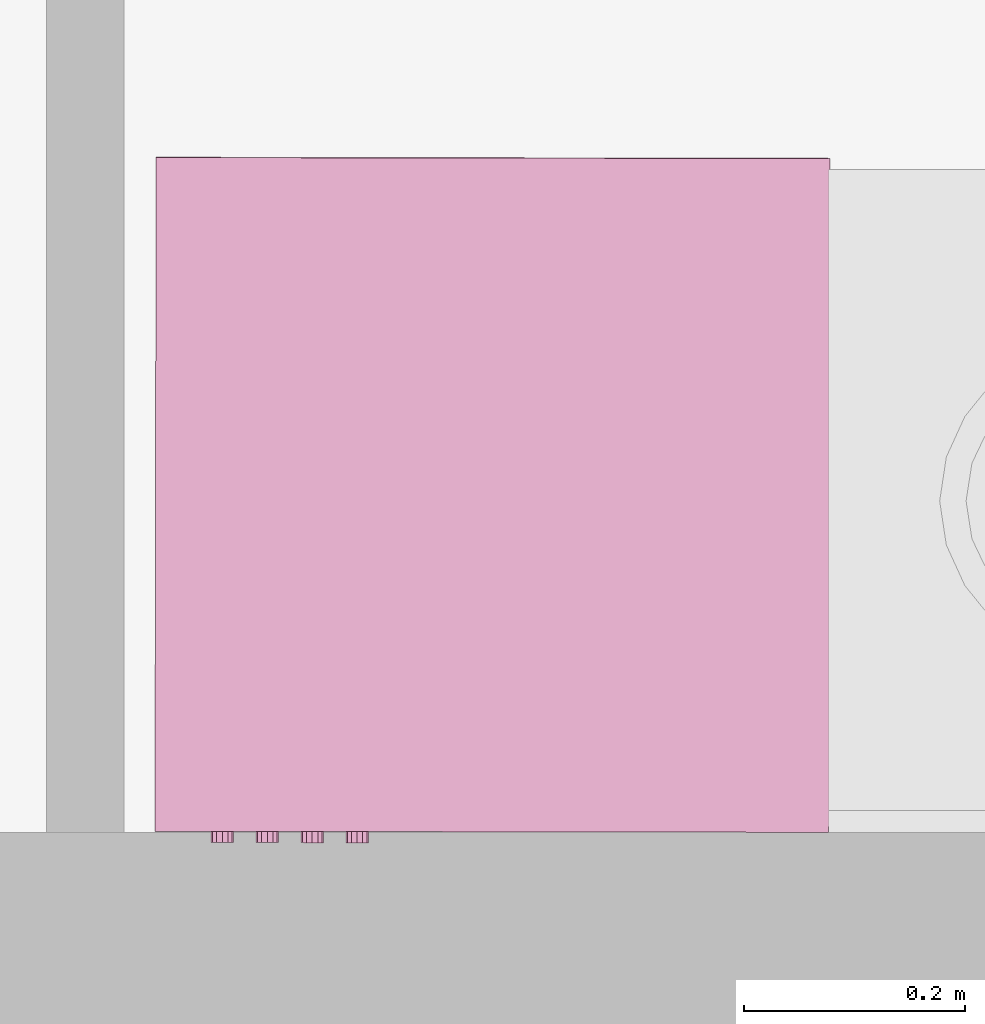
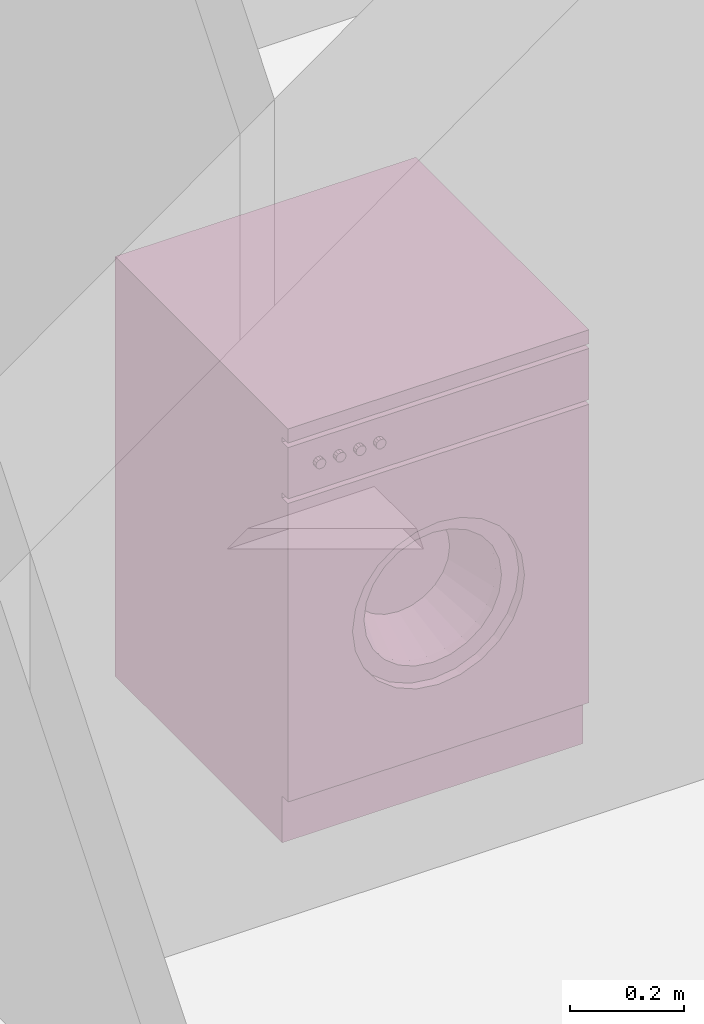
# One storey, part 121 of 164: 1 furnishing.
"""IFC2X3 building model written with IfcOpenShell, lengths in millimetres."""

from ifc_helpers import new_model, entity, si_unit, converted_unit, derived_unit, money_unit, direction, frame, origin_with_axes, place, context, subcontext, project, spatial, open_shell, faceted_brep, surface_model, source, transform, mapped, type_object, element, save


model = new_model("IFC2X3")

# Units and contexts
model_context = context("Model", 3, precision=0.01, world=origin_with_axes(), true_north=direction((0.0, 1.0)))
body_context = subcontext(model_context, "Body", "Model", "MODEL_VIEW")
ifc_project = project(units=[si_unit("LENGTHUNIT", "METRE", prefix="MILLI"), si_unit("AREAUNIT", "SQUARE_METRE"), si_unit("VOLUMEUNIT", "CUBIC_METRE"), converted_unit("PLANEANGLEUNIT", "DEGREE", entity("IfcPlaneAngleMeasure", 0.0174532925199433), si_unit("PLANEANGLEUNIT", "RADIAN"), dimensions=[0, 0, 0, 0, 0, 0, 0]), money_unit("USD"), converted_unit("TIMEUNIT", "Year", entity("IfcTimeMeasure", 31557600.0), si_unit("TIMEUNIT", "SECOND"), dimensions=[0, 0, 1, 0, 0, 0, 0]), si_unit("MASSUNIT", "GRAM", prefix="KILO"), si_unit("THERMODYNAMICTEMPERATUREUNIT", "DEGREE_CELSIUS"), si_unit("LUMINOUSINTENSITYUNIT", "LUMEN"), si_unit("ENERGYUNIT", "JOULE", prefix="MEGA"), derived_unit("THERMALCONDUCTANCEUNIT", [(si_unit("POWERUNIT", "WATT"), 1), (si_unit("LENGTHUNIT", "METRE"), -1), (si_unit("THERMODYNAMICTEMPERATUREUNIT", "KELVIN"), -1)]), derived_unit("SPECIFICHEATCAPACITYUNIT", [(si_unit("ENERGYUNIT", "JOULE"), 1), (si_unit("MASSUNIT", "GRAM", prefix="KILO"), -1), (si_unit("THERMODYNAMICTEMPERATUREUNIT", "KELVIN"), -1)]), derived_unit("MASSDENSITYUNIT", [(si_unit("MASSUNIT", "GRAM", prefix="KILO"), 1), (si_unit("VOLUMEUNIT", "CUBIC_METRE"), -1)])], contexts=[model_context])

# Site, building, storey
site_placement = place(None, origin_with_axes())
site = spatial("IfcSite", under=ifc_project, at=site_placement, Name="Site", CompositionType="ELEMENT")
building_placement = place(site_placement, origin_with_axes())
building = spatial("IfcBuilding", under=site, at=building_placement, Name="Bâtiment", CompositionType="ELEMENT")
storey_placement = place(building_placement, frame((0.0, 0.0, 5750.0), z_axis=(0.0, 0.0, 1.0), x_axis=(1.0, 0.0, 0.0)))
storey = spatial("IfcBuildingStorey", under=building, at=storey_placement, Name="Etage1", CompositionType="ELEMENT", Elevation=5750.0)

# Furnishing
furnishing_element_type = type_object("IfcFurnishingElementType", Name="Machine à laver")
shared_shape = source(origin_with_axes(), body_context, "Body", "SurfaceModel", [
    faceted_brep([(0.0, 20.33333333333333, 100.0), (610.0, 20.33333333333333, 100.0), (610.0, 0.0, 100.0), (0.0, 0.0, 100.0), (0.0, 20.33333333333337, 740.0), (610.0, 20.33333333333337, 740.0), (479.2857142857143, 20.33333333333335, 420.0000000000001), (473.3470725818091, 20.33333333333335, 465.1084621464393), (455.935856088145, 20.33333333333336, 507.1428571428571), (428.2386104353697, 20.33333333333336, 543.2386104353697), (392.1428571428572, 20.33333333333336, 570.935856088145), (350.1084621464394, 20.33333333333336, 588.347072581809), (305.0000000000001, 20.33333333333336, 594.2857142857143), (259.8915378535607, 20.33333333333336, 588.347072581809), (217.8571428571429, 20.33333333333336, 570.9358560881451), (181.7613895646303, 20.33333333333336, 543.2386104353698), (154.0641439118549, 20.33333333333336, 507.1428571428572), (136.6529274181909, 20.33333333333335, 465.1084621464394), (130.7142857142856, 20.33333333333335, 420.0000000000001), (136.6529274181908, 20.33333333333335, 374.8915378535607), (154.0641439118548, 20.33333333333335, 332.8571428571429), (181.7613895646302, 20.33333333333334, 296.7613895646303), (217.8571428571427, 20.33333333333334, 269.064143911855), (259.8915378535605, 20.33333333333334, 251.6529274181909), (304.9999999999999, 20.33333333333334, 245.7142857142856), (350.1084621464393, 20.33333333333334, 251.6529274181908), (392.1428571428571, 20.33333333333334, 269.0641439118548), (428.2386104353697, 20.33333333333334, 296.7613895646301), (455.935856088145, 20.33333333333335, 332.8571428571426), (473.3470725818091, 20.33333333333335, 374.8915378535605), (610.0, 0.0, 740.0), (0.0, 0.0, 740.0), (479.2857142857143, 0.0, 420.0000000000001), (473.3470725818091, 0.0, 374.8915378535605), (455.935856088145, 0.0, 332.8571428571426), (428.2386104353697, 0.0, 296.7613895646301), (392.1428571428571, 0.0, 269.0641439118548), (350.1084621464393, 0.0, 251.6529274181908), (304.9999999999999, 0.0, 245.7142857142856), (259.8915378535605, 0.0, 251.6529274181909), (217.8571428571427, 0.0, 269.064143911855), (181.7613895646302, 0.0, 296.7613895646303), (154.0641439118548, 0.0, 332.8571428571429), (136.6529274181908, 0.0, 374.8915378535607), (130.7142857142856, 0.0, 420.0000000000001), (136.6529274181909, 0.0, 465.1084621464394), (154.0641439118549, 0.0, 507.1428571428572), (181.7613895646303, 0.0, 543.2386104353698), (217.8571428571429, 0.0, 570.9358560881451), (259.8915378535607, 0.0, 588.347072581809), (305.0000000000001, 0.0, 594.2857142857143), (350.1084621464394, 0.0, 588.347072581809), (392.1428571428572, 0.0, 570.935856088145), (428.2386104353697, 0.0, 543.2386104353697), (455.935856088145, 0.0, 507.1428571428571), (473.3470725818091, 0.0, 465.1084621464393)], [[[0, 1, 2, 3]], [[0, 4, 5, 1], [6, 7, 8, 9, 10, 11, 12, 13, 14, 15, 16, 17, 18, 19, 20, 21, 22, 23, 24, 25, 26, 27, 28, 29]], [[1, 5, 30, 2]], [[3, 2, 30, 31], [32, 33, 34, 35, 36, 37, 38, 39, 40, 41, 42, 43, 44, 45, 46, 47, 48, 49, 50, 51, 52, 53, 54, 55]], [[4, 0, 3, 31]], [[5, 4, 31, 30]], [[7, 6, 32, 55]], [[8, 7, 55, 54]], [[9, 8, 54, 53]], [[10, 9, 53, 52]], [[11, 10, 52, 51]], [[12, 11, 51, 50]], [[13, 12, 50, 49]], [[14, 13, 49, 48]], [[15, 14, 48, 47]], [[16, 15, 47, 46]], [[17, 16, 46, 45]], [[18, 17, 45, 44]], [[19, 18, 44, 43]], [[20, 19, 43, 42]], [[21, 20, 42, 41]], [[22, 21, 41, 40]], [[23, 22, 40, 39]], [[24, 23, 39, 38]], [[25, 24, 38, 37]], [[26, 25, 37, 36]], [[27, 26, 36, 35]], [[28, 27, 35, 34]], [[29, 28, 34, 33]], [[6, 29, 33, 32]]]),
    faceted_brep([(479.2857142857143, 40.66666666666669, 420.0000000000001), (473.3470725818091, 40.66666666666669, 465.1084621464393), (473.3470725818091, 20.33333333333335, 465.1084621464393), (479.2857142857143, 20.33333333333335, 420.0000000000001), (473.3470725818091, 40.66666666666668, 374.8915378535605), (455.935856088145, 40.66666666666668, 332.8571428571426), (428.2386104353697, 40.66666666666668, 296.7613895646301), (392.1428571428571, 40.66666666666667, 269.0641439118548), (350.1084621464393, 40.66666666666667, 251.6529274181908), (304.9999999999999, 40.66666666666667, 245.7142857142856), (259.8915378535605, 40.66666666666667, 251.6529274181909), (217.8571428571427, 40.66666666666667, 269.064143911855), (181.7613895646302, 40.66666666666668, 296.7613895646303), (154.0641439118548, 40.66666666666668, 332.8571428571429), (136.6529274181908, 40.66666666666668, 374.8915378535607), (130.7142857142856, 40.66666666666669, 420.0000000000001), (136.6529274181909, 40.66666666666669, 465.1084621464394), (154.0641439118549, 40.66666666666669, 507.1428571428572), (181.7613895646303, 40.66666666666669, 543.2386104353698), (217.8571428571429, 40.66666666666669, 570.9358560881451), (259.8915378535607, 40.66666666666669, 588.347072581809), (305.0000000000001, 40.66666666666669, 594.2857142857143), (350.1084621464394, 40.66666666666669, 588.347072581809), (392.1428571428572, 40.66666666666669, 570.935856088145), (428.2386104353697, 40.66666666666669, 543.2386104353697), (455.935856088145, 40.66666666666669, 507.1428571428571), (444.4285714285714, 40.66666666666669, 420.0000000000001), (439.6776580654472, 40.66666666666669, 456.0867697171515), (425.748684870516, 40.66666666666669, 489.7142857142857), (403.5908883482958, 40.66666666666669, 518.5908883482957), (374.7142857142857, 40.66666666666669, 540.748684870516), (341.0867697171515, 40.66666666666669, 554.6776580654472), (305.0000000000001, 40.66666666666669, 559.4285714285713), (268.9132302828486, 40.66666666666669, 554.6776580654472), (235.2857142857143, 40.66666666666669, 540.7486848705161), (206.4091116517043, 40.66666666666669, 518.5908883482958), (184.251315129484, 40.66666666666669, 489.7142857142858), (170.3223419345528, 40.66666666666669, 456.0867697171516), (165.5714285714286, 40.66666666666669, 420.0000000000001), (170.3223419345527, 40.66666666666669, 383.9132302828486), (184.2513151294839, 40.66666666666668, 350.2857142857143), (206.4091116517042, 40.66666666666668, 321.4091116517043), (235.2857142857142, 40.66666666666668, 299.251315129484), (268.9132302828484, 40.66666666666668, 285.3223419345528), (304.9999999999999, 40.66666666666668, 280.5714285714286), (341.0867697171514, 40.66666666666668, 285.3223419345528), (374.7142857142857, 40.66666666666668, 299.2513151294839), (403.5908883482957, 40.66666666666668, 321.4091116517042), (425.748684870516, 40.66666666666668, 350.2857142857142), (439.6776580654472, 40.66666666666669, 383.9132302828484), (455.935856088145, 20.33333333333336, 507.1428571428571), (428.2386104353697, 20.33333333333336, 543.2386104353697), (392.1428571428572, 20.33333333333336, 570.935856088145), (350.1084621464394, 20.33333333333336, 588.347072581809), (305.0000000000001, 20.33333333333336, 594.2857142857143), (259.8915378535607, 20.33333333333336, 588.347072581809), (217.8571428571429, 20.33333333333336, 570.9358560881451), (181.7613895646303, 20.33333333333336, 543.2386104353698), (154.0641439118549, 20.33333333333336, 507.1428571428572), (136.6529274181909, 20.33333333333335, 465.1084621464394), (130.7142857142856, 20.33333333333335, 420.0000000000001), (136.6529274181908, 20.33333333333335, 374.8915378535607), (154.0641439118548, 20.33333333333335, 332.8571428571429), (181.7613895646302, 20.33333333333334, 296.7613895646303), (217.8571428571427, 20.33333333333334, 269.064143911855), (259.8915378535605, 20.33333333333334, 251.6529274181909), (304.9999999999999, 20.33333333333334, 245.7142857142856), (350.1084621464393, 20.33333333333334, 251.6529274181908), (392.1428571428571, 20.33333333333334, 269.0641439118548), (428.2386104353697, 20.33333333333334, 296.7613895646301), (455.935856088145, 20.33333333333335, 332.8571428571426), (473.3470725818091, 20.33333333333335, 374.8915378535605), (444.4285714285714, 20.33333333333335, 420.0000000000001), (439.6776580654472, 20.33333333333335, 383.9132302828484), (425.748684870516, 20.33333333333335, 350.2857142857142), (403.5908883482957, 20.33333333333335, 321.4091116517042), (374.7142857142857, 20.33333333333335, 299.2513151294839), (341.0867697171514, 20.33333333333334, 285.3223419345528), (304.9999999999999, 20.33333333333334, 280.5714285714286), (268.9132302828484, 20.33333333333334, 285.3223419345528), (235.2857142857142, 20.33333333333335, 299.251315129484), (206.4091116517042, 20.33333333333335, 321.4091116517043), (184.2513151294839, 20.33333333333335, 350.2857142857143), (170.3223419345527, 20.33333333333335, 383.9132302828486), (165.5714285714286, 20.33333333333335, 420.0000000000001), (170.3223419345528, 20.33333333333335, 456.0867697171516), (184.251315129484, 20.33333333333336, 489.7142857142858), (206.4091116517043, 20.33333333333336, 518.5908883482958), (235.2857142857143, 20.33333333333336, 540.7486848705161), (268.9132302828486, 20.33333333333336, 554.6776580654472), (305.0000000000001, 20.33333333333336, 559.4285714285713), (341.0867697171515, 20.33333333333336, 554.6776580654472), (374.7142857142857, 20.33333333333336, 540.748684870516), (403.5908883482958, 20.33333333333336, 518.5908883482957), (425.748684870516, 20.33333333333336, 489.7142857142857), (439.6776580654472, 20.33333333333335, 456.0867697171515)], [[[0, 1, 2, 3]], [[0, 4, 5, 6, 7, 8, 9, 10, 11, 12, 13, 14, 15, 16, 17, 18, 19, 20, 21, 22, 23, 24, 25, 1], [26, 27, 28, 29, 30, 31, 32, 33, 34, 35, 36, 37, 38, 39, 40, 41, 42, 43, 44, 45, 46, 47, 48, 49]], [[1, 25, 50, 2]], [[3, 2, 50, 51, 52, 53, 54, 55, 56, 57, 58, 59, 60, 61, 62, 63, 64, 65, 66, 67, 68, 69, 70, 71], [72, 73, 74, 75, 76, 77, 78, 79, 80, 81, 82, 83, 84, 85, 86, 87, 88, 89, 90, 91, 92, 93, 94, 95]], [[4, 0, 3, 71]], [[5, 4, 71, 70]], [[6, 5, 70, 69]], [[7, 6, 69, 68]], [[8, 7, 68, 67]], [[9, 8, 67, 66]], [[10, 9, 66, 65]], [[11, 10, 65, 64]], [[12, 11, 64, 63]], [[13, 12, 63, 62]], [[14, 13, 62, 61]], [[15, 14, 61, 60]], [[16, 15, 60, 59]], [[17, 16, 59, 58]], [[18, 17, 58, 57]], [[19, 18, 57, 56]], [[20, 19, 56, 55]], [[21, 20, 55, 54]], [[22, 21, 54, 53]], [[23, 22, 53, 52]], [[24, 23, 52, 51]], [[25, 24, 51, 50]], [[27, 26, 72, 95]], [[28, 27, 95, 94]], [[29, 28, 94, 93]], [[30, 29, 93, 92]], [[31, 30, 92, 91]], [[32, 31, 91, 90]], [[33, 32, 90, 89]], [[34, 33, 89, 88]], [[35, 34, 88, 87]], [[36, 35, 87, 86]], [[37, 36, 86, 85]], [[38, 37, 85, 84]], [[39, 38, 84, 83]], [[40, 39, 83, 82]], [[41, 40, 82, 81]], [[42, 41, 81, 80]], [[43, 42, 80, 79]], [[44, 43, 79, 78]], [[45, 44, 78, 77]], [[46, 45, 77, 76]], [[47, 46, 76, 75]], [[48, 47, 75, 74]], [[49, 48, 74, 73]], [[26, 49, 73, 72]]]),
    surface_model("IfcShellBasedSurfaceModel", [(268.9132302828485, 40.6666666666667, 554.6776580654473), (305.0, 40.6666666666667, 559.4285714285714), (305.0, 142.3333333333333, 524.5714285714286), (277.9349227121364, 142.3333333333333, 521.0082435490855), (341.0867697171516, 40.6666666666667, 554.6776580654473), (332.0650772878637, 142.3333333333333, 521.0082435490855), (357.2857142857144, 142.3333333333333, 510.5615136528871), (378.9431662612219, 142.3333333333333, 493.9431662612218), (395.5615136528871, 142.3333333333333, 472.2857142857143), (406.0082435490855, 142.3333333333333, 447.0650772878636), (409.5714285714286, 142.3333333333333, 420.0), (406.0082435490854, 142.3333333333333, 392.9349227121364), (395.561513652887, 142.3333333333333, 367.7142857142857), (378.9431662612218, 142.3333333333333, 346.0568337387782), (357.2857142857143, 142.3333333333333, 329.438486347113), (332.0650772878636, 142.3333333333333, 318.9917564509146), (304.9999999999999, 142.3333333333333, 315.4285714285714), (277.9349227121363, 142.3333333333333, 318.9917564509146), (252.7142857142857, 142.3333333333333, 329.438486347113), (231.0568337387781, 142.3333333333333, 346.0568337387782), (214.4384863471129, 142.3333333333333, 367.7142857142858), (203.9917564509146, 142.3333333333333, 392.9349227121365), (200.4285714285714, 142.3333333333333, 420.0000000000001), (203.9917564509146, 142.3333333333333, 447.0650772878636), (214.438486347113, 142.3333333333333, 472.2857142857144), (231.0568337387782, 142.3333333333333, 493.9431662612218), (252.7142857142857, 142.3333333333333, 510.5615136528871), (235.2857142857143, 40.6666666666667, 540.7486848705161), (374.7142857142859, 40.6666666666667, 540.7486848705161), (403.5908883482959, 40.66666666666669, 518.5908883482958), (425.7486848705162, 40.66666666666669, 489.7142857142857), (439.6776580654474, 40.66666666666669, 456.0867697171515), (444.4285714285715, 40.66666666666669, 419.9999999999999), (439.6776580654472, 40.66666666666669, 383.9132302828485), (425.748684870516, 40.66666666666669, 350.2857142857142), (403.5908883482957, 40.66666666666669, 321.4091116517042), (374.7142857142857, 40.66666666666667, 299.2513151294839), (341.0867697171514, 40.66666666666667, 285.3223419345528), (304.9999999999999, 40.66666666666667, 280.5714285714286), (268.9132302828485, 40.66666666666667, 285.3223419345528), (235.2857142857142, 40.66666666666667, 299.251315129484), (206.4091116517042, 40.66666666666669, 321.4091116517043), (184.2513151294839, 40.66666666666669, 350.2857142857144), (170.3223419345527, 40.66666666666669, 383.9132302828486), (165.5714285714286, 40.66666666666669, 420.0000000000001), (170.3223419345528, 40.66666666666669, 456.0867697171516), (184.251315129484, 40.66666666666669, 489.7142857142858), (206.4091116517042, 40.66666666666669, 518.5908883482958)], [open_shell([[[0, 1, 2, 3]], [[1, 4, 5, 2]], [[2, 5, 6, 7, 8, 9, 10, 11, 12, 13, 14, 15, 16, 17, 18, 19, 20, 21, 22, 23, 24, 25, 26, 3]], [[27, 0, 3, 26]], [[4, 28, 6, 5]], [[28, 29, 7, 6]], [[29, 30, 8, 7]], [[30, 31, 9, 8]], [[31, 32, 10, 9]], [[32, 33, 11, 10]], [[33, 34, 12, 11]], [[34, 35, 13, 12]], [[35, 36, 14, 13]], [[36, 37, 15, 14]], [[37, 38, 16, 15]], [[38, 39, 17, 16]], [[39, 40, 18, 17]], [[40, 41, 19, 18]], [[41, 42, 20, 19]], [[42, 43, 21, 20]], [[43, 44, 22, 21]], [[44, 45, 23, 22]], [[45, 46, 24, 23]], [[46, 47, 25, 24]], [[47, 27, 26, 25]]])]),
    surface_model("IfcShellBasedSurfaceModel", [(0.0, 20.33333333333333, 100.0), (0.0, 20.33333333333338, 870.0), (0.0, 610.0, 870.0), (0.0, 610.0, 99.99999999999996)], [open_shell([[[0, 1, 2, 3]]])]),
    surface_model("IfcShellBasedSurfaceModel", [(610.0, 20.33333333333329, 100.0), (610.0, 20.33333333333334, 870.0), (610.0, 610.0, 870.0), (610.0, 610.0, 99.99999999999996)], [open_shell([[[0, 1, 2, 3]]])]),
    surface_model("IfcShellBasedSurfaceModel", [(0.0, 610.0, 100.0), (0.0, 610.0, 870.0), (610.0, 610.0, 870.0), (610.0, 610.0, 100.0)], [open_shell([[[0, 1, 2, 3]]])]),
    faceted_brep([(0.0, 20.33333333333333, 0.0), (610.0, 20.33333333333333, 0.0), (610.0, 20.33333333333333, 100.0), (0.0, 20.33333333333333, 100.0), (0.0, 610.3333333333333, 0.0), (610.0, 610.3333333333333, 0.0), (610.0, 610.3333333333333, 100.0), (0.0, 610.3333333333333, 100.0)], [[[0, 1, 2, 3]], [[0, 4, 5, 1]], [[1, 5, 6, 2]], [[3, 2, 6, 7]], [[4, 0, 3, 7]], [[5, 4, 7, 6]]]),
    faceted_brep([(0.0, 20.33333333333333, 750.0), (610.0, 20.33333333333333, 750.0), (610.0, 0.0, 750.0), (0.0, 0.0, 750.0), (0.0, 20.33333333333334, 860.0), (610.0, 20.33333333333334, 860.0), (610.0, 0.0, 860.0), (0.0, 0.0, 860.0)], [[[0, 1, 2, 3]], [[0, 4, 5, 1]], [[1, 5, 6, 2]], [[3, 2, 6, 7]], [[4, 0, 3, 7]], [[5, 4, 7, 6]]]),
    surface_model("IfcShellBasedSurfaceModel", [(0.0, 20.33333333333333, 739.8333333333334), (0.0, 20.33333333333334, 869.8333333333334), (610.0, 20.33333333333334, 869.8333333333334), (610.0, 20.33333333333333, 739.8333333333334)], [open_shell([[[0, 1, 2, 3]]])]),
    faceted_brep([(0.0, 0.0, 870.0), (610.0, 0.0, 870.0), (610.0, 0.0, 900.0), (0.0, 0.0, 900.0), (0.0, 610.0, 870.0), (610.0, 610.0, 870.0), (610.0, 610.0, 900.0), (0.0, 610.0, 900.0)], [[[0, 1, 2, 3]], [[0, 4, 5, 1]], [[1, 5, 6, 2]], [[3, 2, 6, 7]], [[4, 0, 3, 7]], [[5, 4, 7, 6]]]),
    faceted_brep([(69.80459160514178, 0.0, 804.9166666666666), (66.08333333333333, 0.0, 801.1954083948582), (60.99999999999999, 0.0, 799.8333333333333), (55.91666666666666, 0.0, 801.1954083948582), (52.1954083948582, 0.0, 804.9166666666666), (50.83333333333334, 0.0, 809.9999999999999), (52.19540839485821, 0.0, 815.0833333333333), (55.91666666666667, 0.0, 818.8045916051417), (61.0, 0.0, 820.1666666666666), (66.08333333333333, 0.0, 818.8045916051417), (69.8045916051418, 0.0, 815.0833333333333), (71.16666666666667, 0.0, 809.9999999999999), (69.80459160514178, -10.16666666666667, 804.9166666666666), (66.08333333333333, -10.16666666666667, 801.1954083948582), (60.99999999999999, -10.16666666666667, 799.8333333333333), (55.91666666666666, -10.16666666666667, 801.1954083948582), (52.1954083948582, -10.16666666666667, 804.9166666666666), (50.83333333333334, -10.16666666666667, 809.9999999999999), (52.19540839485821, -10.16666666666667, 815.0833333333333), (55.91666666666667, -10.16666666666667, 818.8045916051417), (61.0, -10.16666666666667, 820.1666666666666), (66.08333333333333, -10.16666666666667, 818.8045916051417), (69.8045916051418, -10.16666666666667, 815.0833333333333), (71.16666666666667, -10.16666666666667, 809.9999999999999)], [[[0, 1, 2, 3, 4, 5, 6, 7, 8, 9, 10, 11]], [[1, 0, 12, 13]], [[2, 1, 13, 14]], [[3, 2, 14, 15]], [[4, 3, 15, 16]], [[5, 4, 16, 17]], [[6, 5, 17, 18]], [[7, 6, 18, 19]], [[8, 7, 19, 20]], [[9, 8, 20, 21]], [[10, 9, 21, 22]], [[11, 10, 22, 23]], [[0, 11, 23, 12]], [[12, 23, 22, 21, 20, 19, 18, 17, 16, 15, 14, 13]]]),
    faceted_brep([(110.4712582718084, 0.0, 804.9166666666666), (106.75, 0.0, 801.1954083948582), (101.6666666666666, 0.0, 799.8333333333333), (96.58333333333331, 0.0, 801.1954083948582), (92.86207506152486, 0.0, 804.9166666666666), (91.49999999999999, 0.0, 809.9999999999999), (92.86207506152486, 0.0, 815.0833333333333), (96.58333333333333, 0.0, 818.8045916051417), (101.6666666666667, 0.0, 820.1666666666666), (106.75, 0.0, 818.8045916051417), (110.4712582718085, 0.0, 815.0833333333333), (111.8333333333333, 0.0, 809.9999999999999), (110.4712582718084, -10.16666666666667, 804.9166666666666), (106.75, -10.16666666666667, 801.1954083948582), (101.6666666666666, -10.16666666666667, 799.8333333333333), (96.58333333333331, -10.16666666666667, 801.1954083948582), (92.86207506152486, -10.16666666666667, 804.9166666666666), (91.49999999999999, -10.16666666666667, 809.9999999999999), (92.86207506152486, -10.16666666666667, 815.0833333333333), (96.58333333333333, -10.16666666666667, 818.8045916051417), (101.6666666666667, -10.16666666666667, 820.1666666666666), (106.75, -10.16666666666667, 818.8045916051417), (110.4712582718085, -10.16666666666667, 815.0833333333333), (111.8333333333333, -10.16666666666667, 809.9999999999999)], [[[0, 1, 2, 3, 4, 5, 6, 7, 8, 9, 10, 11]], [[1, 0, 12, 13]], [[2, 1, 13, 14]], [[3, 2, 14, 15]], [[4, 3, 15, 16]], [[5, 4, 16, 17]], [[6, 5, 17, 18]], [[7, 6, 18, 19]], [[8, 7, 19, 20]], [[9, 8, 20, 21]], [[10, 9, 21, 22]], [[11, 10, 22, 23]], [[0, 11, 23, 12]], [[12, 23, 22, 21, 20, 19, 18, 17, 16, 15, 14, 13]]]),
    faceted_brep([(151.1379249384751, 0.0, 804.9166666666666), (147.4166666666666, 0.0, 801.1954083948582), (142.3333333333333, 0.0, 799.8333333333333), (137.25, 0.0, 801.1954083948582), (133.5287417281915, 0.0, 804.9166666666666), (132.1666666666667, 0.0, 809.9999999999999), (133.5287417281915, 0.0, 815.0833333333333), (137.25, 0.0, 818.8045916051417), (142.3333333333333, 0.0, 820.1666666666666), (147.4166666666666, 0.0, 818.8045916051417), (151.1379249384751, 0.0, 815.0833333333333), (152.5, 0.0, 809.9999999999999), (151.1379249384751, -10.16666666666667, 804.9166666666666), (147.4166666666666, -10.16666666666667, 801.1954083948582), (142.3333333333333, -10.16666666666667, 799.8333333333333), (137.25, -10.16666666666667, 801.1954083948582), (133.5287417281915, -10.16666666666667, 804.9166666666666), (132.1666666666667, -10.16666666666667, 809.9999999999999), (133.5287417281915, -10.16666666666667, 815.0833333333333), (137.25, -10.16666666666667, 818.8045916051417), (142.3333333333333, -10.16666666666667, 820.1666666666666), (147.4166666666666, -10.16666666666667, 818.8045916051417), (151.1379249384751, -10.16666666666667, 815.0833333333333), (152.5, -10.16666666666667, 809.9999999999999)], [[[0, 1, 2, 3, 4, 5, 6, 7, 8, 9, 10, 11]], [[1, 0, 12, 13]], [[2, 1, 13, 14]], [[3, 2, 14, 15]], [[4, 3, 15, 16]], [[5, 4, 16, 17]], [[6, 5, 17, 18]], [[7, 6, 18, 19]], [[8, 7, 19, 20]], [[9, 8, 20, 21]], [[10, 9, 21, 22]], [[11, 10, 22, 23]], [[0, 11, 23, 12]], [[12, 23, 22, 21, 20, 19, 18, 17, 16, 15, 14, 13]]]),
    faceted_brep([(191.8045916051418, 0.0, 804.9166666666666), (188.0833333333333, 0.0, 801.1954083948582), (183.0, 0.0, 799.8333333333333), (177.9166666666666, 0.0, 801.1954083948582), (174.1954083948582, 0.0, 804.9166666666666), (172.8333333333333, 0.0, 809.9999999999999), (174.1954083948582, 0.0, 815.0833333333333), (177.9166666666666, 0.0, 818.8045916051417), (183.0, 0.0, 820.1666666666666), (188.0833333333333, 0.0, 818.8045916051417), (191.8045916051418, 0.0, 815.0833333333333), (193.1666666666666, 0.0, 809.9999999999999), (191.8045916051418, -10.16666666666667, 804.9166666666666), (188.0833333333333, -10.16666666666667, 801.1954083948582), (183.0, -10.16666666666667, 799.8333333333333), (177.9166666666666, -10.16666666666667, 801.1954083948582), (174.1954083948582, -10.16666666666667, 804.9166666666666), (172.8333333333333, -10.16666666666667, 809.9999999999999), (174.1954083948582, -10.16666666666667, 815.0833333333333), (177.9166666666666, -10.16666666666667, 818.8045916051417), (183.0, -10.16666666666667, 820.1666666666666), (188.0833333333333, -10.16666666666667, 818.8045916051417), (191.8045916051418, -10.16666666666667, 815.0833333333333), (193.1666666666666, -10.16666666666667, 809.9999999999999)], [[[0, 1, 2, 3, 4, 5, 6, 7, 8, 9, 10, 11]], [[1, 0, 12, 13]], [[2, 1, 13, 14]], [[3, 2, 14, 15]], [[4, 3, 15, 16]], [[5, 4, 16, 17]], [[6, 5, 17, 18]], [[7, 6, 18, 19]], [[8, 7, 19, 20]], [[9, 8, 20, 21]], [[10, 9, 21, 22]], [[11, 10, 22, 23]], [[0, 11, 23, 12]], [[12, 23, 22, 21, 20, 19, 18, 17, 16, 15, 14, 13]]]),
])
furnishing_placement = place(storey_placement, frame((2221708.856334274, -632432.5096483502, 0.0), z_axis=(0.0, 0.0, 1.0), x_axis=(0.9999986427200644, -0.001647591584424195, 0.0)))
element("IfcFurnishingElement", 1, at=furnishing_placement, inside=storey, type_object=furnishing_element_type, Name="Obj.-003", context=body_context, shape_type="MappedRepresentation", body=[
    mapped(shared_shape, transform((0.0, 0.0, 0.0))),
])

save(model, "model.ifc")
